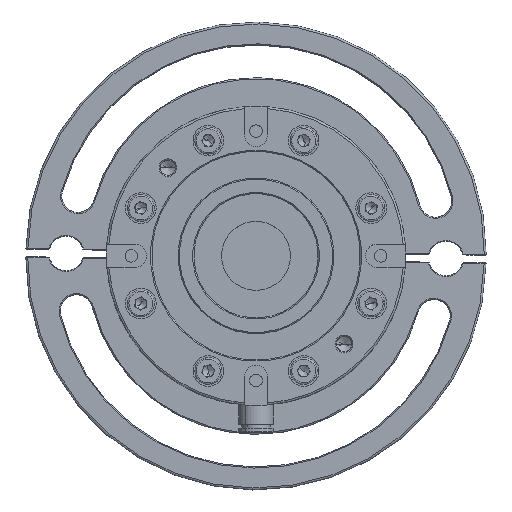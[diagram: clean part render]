
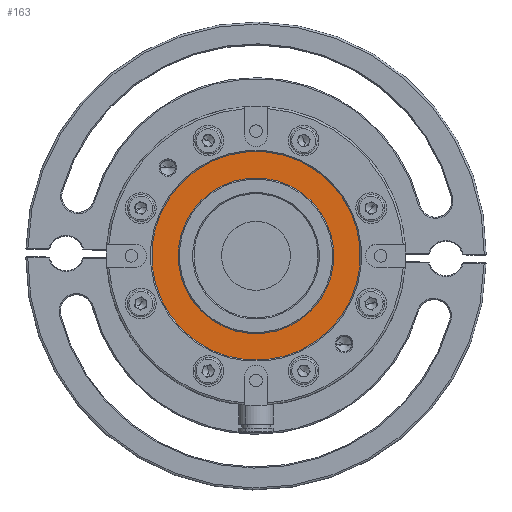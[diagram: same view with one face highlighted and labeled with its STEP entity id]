
A CAD part, top view. The second image highlights one B-rep face of the part: STEP entity #163.
In plain terms, the highlighted planar face has unit normal (0, 0, 1) as drawn and (0, 1, 0) by its records, which use the part's own axes.
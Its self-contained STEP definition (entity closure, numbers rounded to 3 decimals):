
#163 = ADVANCED_FACE ( 'NONE', ( #13008, #7234 ), #22482, .T. ) ;
#961 = AXIS2_PLACEMENT_3D ( 'NONE', #4793, #18303, #6705 ) ;
#1690 = EDGE_CURVE ( 'NONE', #5109, #12303, #11981, .T. ) ;
#2138 = CARTESIAN_POINT ( 'NONE',  ( 10.711, 64.371, 36.292 ) ) ;
#2216 = DIRECTION ( 'NONE',  ( 0., 1., 0. ) ) ;
#2866 = ORIENTED_EDGE ( 'NONE', *, *, #22818, .T. ) ;
#4793 = CARTESIAN_POINT ( 'NONE',  ( 10.711, 64.371, 63.492 ) ) ;
#5109 = VERTEX_POINT ( 'NONE', #17040 ) ;
#6705 = DIRECTION ( 'NONE',  ( 0., 0., 1. ) ) ;
#7165 = EDGE_LOOP ( 'NONE', ( #20476, #2866 ) ) ;
#7234 = FACE_BOUND ( 'NONE', #7165, .T. ) ;
#7528 = DIRECTION ( 'NONE',  ( 0., -1., 0. ) ) ;
#7564 = AXIS2_PLACEMENT_3D ( 'NONE', #19133, #7528, #21080 ) ;
#8673 = CARTESIAN_POINT ( 'NONE',  ( 10.711, 64.371, 83.792 ) ) ;
#9050 = CARTESIAN_POINT ( 'NONE',  ( 10.711, 64.371, 63.492 ) ) ;
#9278 = EDGE_LOOP ( 'NONE', ( #21788, #18265 ) ) ;
#9753 = EDGE_CURVE ( 'NONE', #16399, #11553, #12172, .T. ) ;
#11007 = DIRECTION ( 'NONE',  ( 0., 0., 1. ) ) ;
#11553 = VERTEX_POINT ( 'NONE', #14177 ) ;
#11981 = CIRCLE ( 'NONE', #961, 20.3 ) ;
#12172 = CIRCLE ( 'NONE', #20120, 27.2 ) ;
#12303 = VERTEX_POINT ( 'NONE', #8673 ) ;
#13008 = FACE_OUTER_BOUND ( 'NONE', #9278, .T. ) ;
#13793 = CARTESIAN_POINT ( 'NONE',  ( 10.711, 64.371, 63.492 ) ) ;
#14177 = CARTESIAN_POINT ( 'NONE',  ( 10.711, 64.371, 90.692 ) ) ;
#14884 = EDGE_CURVE ( 'NONE', #11553, #16399, #19594, .T. ) ;
#15744 = DIRECTION ( 'NONE',  ( 0., 0., 1. ) ) ;
#16384 = CIRCLE ( 'NONE', #7564, 20.3 ) ;
#16399 = VERTEX_POINT ( 'NONE', #2138 ) ;
#17040 = CARTESIAN_POINT ( 'NONE',  ( 10.711, 64.371, 43.192 ) ) ;
#17790 = AXIS2_PLACEMENT_3D ( 'NONE', #13793, #2216, #15744 ) ;
#18265 = ORIENTED_EDGE ( 'NONE', *, *, #9753, .T. ) ;
#18303 = DIRECTION ( 'NONE',  ( 0., -1., 0. ) ) ;
#18405 = DIRECTION ( 'NONE',  ( 1., 0., 0. ) ) ;
#19133 = CARTESIAN_POINT ( 'NONE',  ( 10.711, 64.371, 63.492 ) ) ;
#19594 = CIRCLE ( 'NONE', #17790, 27.2 ) ;
#20120 = AXIS2_PLACEMENT_3D ( 'NONE', #9050, #22601, #11007 ) ;
#20476 = ORIENTED_EDGE ( 'NONE', *, *, #1690, .T. ) ;
#21080 = DIRECTION ( 'NONE',  ( 0., 0., 1. ) ) ;
#21190 = AXIS2_PLACEMENT_3D ( 'NONE', #22391, #24236, #18405 ) ;
#21788 = ORIENTED_EDGE ( 'NONE', *, *, #14884, .T. ) ;
#22391 = CARTESIAN_POINT ( 'NONE',  ( 10.711, 64.371, 63.492 ) ) ;
#22482 = PLANE ( 'NONE',  #21190 ) ;
#22601 = DIRECTION ( 'NONE',  ( 0., 1., 0. ) ) ;
#22818 = EDGE_CURVE ( 'NONE', #12303, #5109, #16384, .T. ) ;
#24236 = DIRECTION ( 'NONE',  ( 0., 1., 0. ) ) ;
